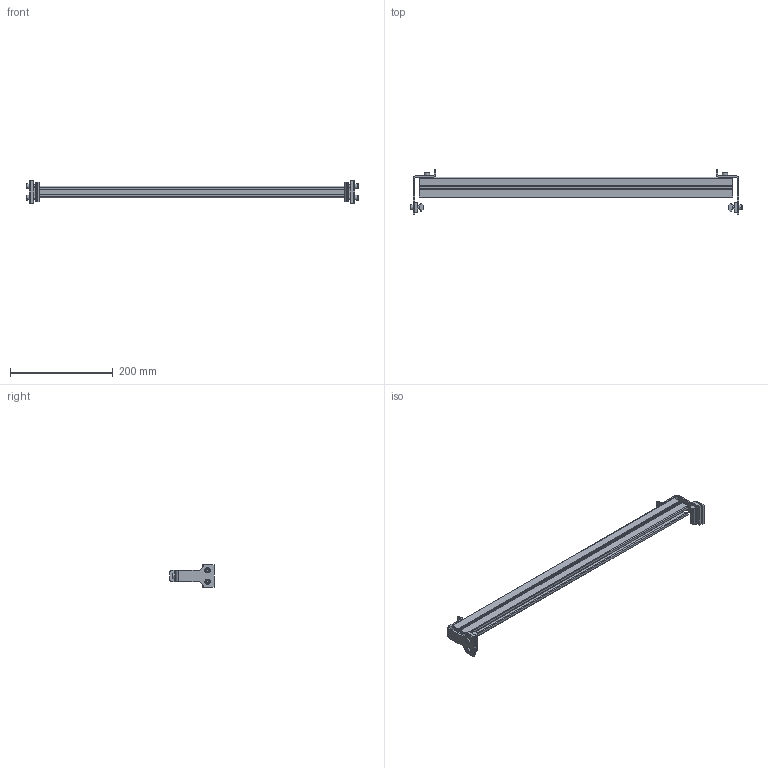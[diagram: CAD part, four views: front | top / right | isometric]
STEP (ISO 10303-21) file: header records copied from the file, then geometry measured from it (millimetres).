
FILE_DESCRIPTION (( 'STEP AP203' ), '1' );
FILE_NAME ('207133-24.STEP', '2018-06-01T13:12:41', ( '' ), ( '' ), 'SwSTEP 2.0', 'SolidWorks 2017', '' );
FILE_SCHEMA (( 'CONFIG_CONTROL_DESIGN' ));
Length unit declared in the file: inch
Products named in the file (8): 639971M_CAE; 201937; 200626M; 9206XXM_920614M; 9206XXM_920620M; 207135-WW_207135-24; 202444; 207133-24
Assembly tree (15 placements, depth 2):
  207133-24
    201937  x2
    207135-WW_207135-24
    202444  x2
    200626M  x2
    639971M_CAE  x2
    9206XXM_920614M  x2
    9206XXM_920620M  x4
Bounding box: 645.37 x 85.8 x 44.45 mm (x, y, z)
Volume: 291663.8 mm3; surface area: 178794.5 mm2
Topology: 15 solids, 15 shells, 428 faces, 1030 edges, 644 vertices
Faces by surface type: plane 258, cylinder 104, cone 66
Entity records: 8258 total; most frequent: CARTESIAN_POINT 1362, DIRECTION 1216, ORIENTED_EDGE 1200, EDGE_CURVE 600, VECTOR 460, LINE 460, VERTEX_POINT 384, AXIS2_PLACEMENT_3D 378
